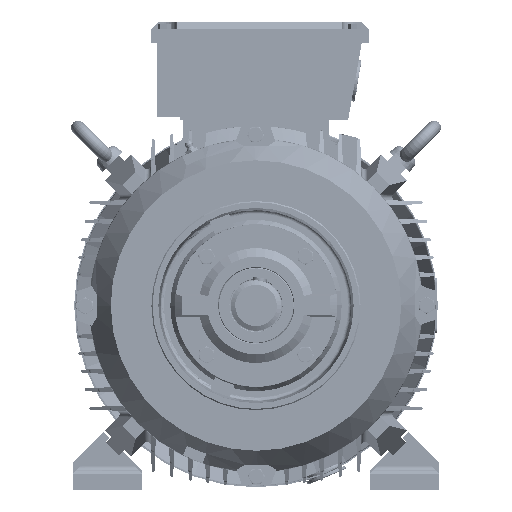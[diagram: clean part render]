
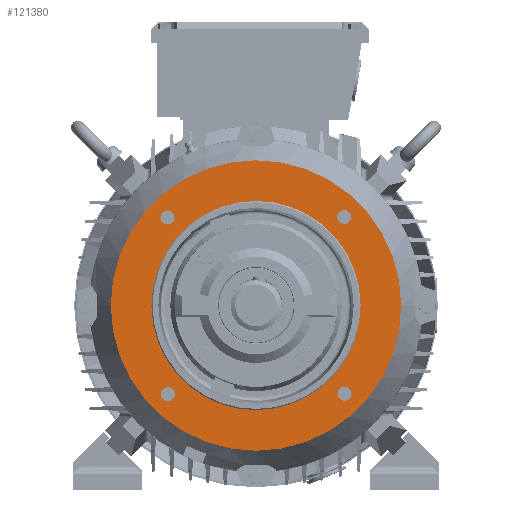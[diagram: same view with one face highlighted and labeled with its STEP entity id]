
A CAD part, left-side view. The second image highlights one B-rep face of the part: STEP entity #121380.
In plain terms, the highlighted planar face has unit normal (-1, 0, 0).
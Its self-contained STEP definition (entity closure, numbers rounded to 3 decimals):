
#7769 = CARTESIAN_POINT ( 'NONE',  ( -130.343, -59.333, -78.166 ) ) ;
#10967 = EDGE_LOOP ( 'NONE', ( #162913, #168850 ) ) ;
#11090 = CARTESIAN_POINT ( 'NONE',  ( -130.343, 93.06, 73.495 ) ) ;
#12861 = CARTESIAN_POINT ( 'NONE',  ( -130.343, 98.694, -78.547 ) ) ;
#13649 = CIRCLE ( 'NONE', #237617, 6. ) ;
#13705 = ORIENTED_EDGE ( 'NONE', *, *, #255192, .F. ) ;
#14177 = DIRECTION ( 'NONE',  ( -1., 0., 0. ) ) ;
#14619 = CARTESIAN_POINT ( 'NONE',  ( -130.343, 99.06, 73.481 ) ) ;
#17585 = CIRCLE ( 'NONE', #60711, 90. ) ;
#20426 = AXIS2_PLACEMENT_3D ( 'NONE', #55722, #156927, #160932 ) ;
#21892 = FACE_BOUND ( 'NONE', #10967, .T. ) ;
#22216 = DIRECTION ( 'NONE',  ( -1., 0., 0. ) ) ;
#24654 = CIRCLE ( 'NONE', #158326, 6. ) ;
#25082 = AXIS2_PLACEMENT_3D ( 'NONE', #48822, #171644, #213446 ) ;
#27525 = DIRECTION ( 'NONE',  ( 0., 1., -0.002 ) ) ;
#34170 = CARTESIAN_POINT ( 'NONE',  ( -130.343, 22.864, -2.35 ) ) ;
#40591 = DIRECTION ( 'NONE',  ( -1., 0., 0. ) ) ;
#42498 = AXIS2_PLACEMENT_3D ( 'NONE', #105551, #186668, #227123 ) ;
#42804 = CARTESIAN_POINT ( 'NONE',  ( -130.343, 98.694, -78.547 ) ) ;
#43486 = FACE_BOUND ( 'NONE', #70364, .T. ) ;
#46233 = VERTEX_POINT ( 'NONE', #105372 ) ;
#47003 = CARTESIAN_POINT ( 'NONE',  ( -130.343, 22.864, -2.35 ) ) ;
#48822 = CARTESIAN_POINT ( 'NONE',  ( -130.343, 22.864, -2.35 ) ) ;
#50024 = VERTEX_POINT ( 'NONE', #76714 ) ;
#50961 = DIRECTION ( 'NONE',  ( 0., -1., 0.002 ) ) ;
#53525 = VERTEX_POINT ( 'NONE', #60709 ) ;
#55124 = EDGE_CURVE ( 'NONE', #208120, #88705, #187933, .T. ) ;
#55552 = VERTEX_POINT ( 'NONE', #99927 ) ;
#55722 = CARTESIAN_POINT ( 'NONE',  ( -130.343, -52.967, 73.847 ) ) ;
#56404 = DIRECTION ( 'NONE',  ( 0., 1., -0.002 ) ) ;
#58562 = CIRCLE ( 'NONE', #67192, 6. ) ;
#58834 = ORIENTED_EDGE ( 'NONE', *, *, #109235, .F. ) ;
#60620 = EDGE_LOOP ( 'NONE', ( #212415, #83271 ) ) ;
#60709 = CARTESIAN_POINT ( 'NONE',  ( -130.343, -67.136, -2.133 ) ) ;
#60711 = AXIS2_PLACEMENT_3D ( 'NONE', #47003, #129328, #211629 ) ;
#60963 = CARTESIAN_POINT ( 'NONE',  ( -130.343, -53.333, -78.18 ) ) ;
#61489 = EDGE_CURVE ( 'NONE', #226945, #46233, #13649, .T. ) ;
#67192 = AXIS2_PLACEMENT_3D ( 'NONE', #60963, #141966, #200050 ) ;
#70364 = EDGE_LOOP ( 'NONE', ( #163960, #13705 ) ) ;
#76714 = CARTESIAN_POINT ( 'NONE',  ( -130.343, 112.863, -2.567 ) ) ;
#81571 = EDGE_CURVE ( 'NONE', #229520, #116386, #24654, .T. ) ;
#82308 = ORIENTED_EDGE ( 'NONE', *, *, #81571, .F. ) ;
#83271 = ORIENTED_EDGE ( 'NONE', *, *, #61489, .F. ) ;
#88705 = VERTEX_POINT ( 'NONE', #102536 ) ;
#99306 = ORIENTED_EDGE ( 'NONE', *, *, #132578, .F. ) ;
#99927 = CARTESIAN_POINT ( 'NONE',  ( -130.343, -102.136, -2.049 ) ) ;
#102536 = CARTESIAN_POINT ( 'NONE',  ( -130.343, 92.694, -78.532 ) ) ;
#104200 = FACE_BOUND ( 'NONE', #109904, .T. ) ;
#104248 = CARTESIAN_POINT ( 'NONE',  ( -130.343, 105.06, 73.466 ) ) ;
#105310 = DIRECTION ( 'NONE',  ( 0., 1., -0.002 ) ) ;
#105372 = CARTESIAN_POINT ( 'NONE',  ( -130.343, -47.333, -78.195 ) ) ;
#105551 = CARTESIAN_POINT ( 'NONE',  ( -130.343, 23.08, 87.65 ) ) ;
#109235 = EDGE_CURVE ( 'NONE', #132391, #116472, #264012, .T. ) ;
#109904 = EDGE_LOOP ( 'NONE', ( #82308, #99306 ) ) ;
#116386 = VERTEX_POINT ( 'NONE', #11090 ) ;
#116472 = VERTEX_POINT ( 'NONE', #222824 ) ;
#119978 = CARTESIAN_POINT ( 'NONE',  ( -130.343, -58.967, 73.862 ) ) ;
#121380 = ADVANCED_FACE ( 'NONE', ( #186535, #124452, #21892, #104200, #125782, #43486 ), #208090, .F. ) ;
#124452 = FACE_BOUND ( 'NONE', #60620, .T. ) ;
#125170 = EDGE_LOOP ( 'NONE', ( #155308, #155329 ) ) ;
#125782 = FACE_BOUND ( 'NONE', #163952, .T. ) ;
#128202 = DIRECTION ( 'NONE',  ( 0., 1., -0.002 ) ) ;
#129328 = DIRECTION ( 'NONE',  ( -1., 0., 0. ) ) ;
#132391 = VERTEX_POINT ( 'NONE', #119978 ) ;
#132578 = EDGE_CURVE ( 'NONE', #116386, #229520, #211790, .T. ) ;
#136742 = DIRECTION ( 'NONE',  ( 0., -1., 0.002 ) ) ;
#140362 = VERTEX_POINT ( 'NONE', #247780 ) ;
#141527 = DIRECTION ( 'NONE',  ( 0., 1., -0.002 ) ) ;
#141966 = DIRECTION ( 'NONE',  ( -1., 0., 0. ) ) ;
#145545 = EDGE_CURVE ( 'NONE', #116472, #132391, #227298, .T. ) ;
#145806 = CARTESIAN_POINT ( 'NONE',  ( -130.343, -53.333, -78.18 ) ) ;
#151656 = DIRECTION ( 'NONE',  ( -1., 0., 0. ) ) ;
#155308 = ORIENTED_EDGE ( 'NONE', *, *, #195180, .T. ) ;
#155329 = ORIENTED_EDGE ( 'NONE', *, *, #196840, .T. ) ;
#156927 = DIRECTION ( 'NONE',  ( -1., 0., 0. ) ) ;
#158326 = AXIS2_PLACEMENT_3D ( 'NONE', #14619, #22216, #56404 ) ;
#158517 = DIRECTION ( 'NONE',  ( 0., 1., -0.002 ) ) ;
#160932 = DIRECTION ( 'NONE',  ( 0., 1., -0.002 ) ) ;
#162913 = ORIENTED_EDGE ( 'NONE', *, *, #55124, .F. ) ;
#163952 = EDGE_LOOP ( 'NONE', ( #238285, #58834 ) ) ;
#163960 = ORIENTED_EDGE ( 'NONE', *, *, #199960, .F. ) ;
#167861 = CIRCLE ( 'NONE', #25082, 125. ) ;
#168850 = ORIENTED_EDGE ( 'NONE', *, *, #223306, .F. ) ;
#169275 = AXIS2_PLACEMENT_3D ( 'NONE', #253654, #229393, #128202 ) ;
#171644 = DIRECTION ( 'NONE',  ( -1., 0., 0. ) ) ;
#179060 = CARTESIAN_POINT ( 'NONE',  ( -130.343, 104.694, -78.561 ) ) ;
#181591 = AXIS2_PLACEMENT_3D ( 'NONE', #227811, #246732, #141527 ) ;
#183692 = AXIS2_PLACEMENT_3D ( 'NONE', #42804, #151656, #27525 ) ;
#184640 = CIRCLE ( 'NONE', #244900, 125. ) ;
#186535 = FACE_OUTER_BOUND ( 'NONE', #125170, .T. ) ;
#186668 = DIRECTION ( 'NONE',  ( 1., 0., 0. ) ) ;
#187933 = CIRCLE ( 'NONE', #183692, 6. ) ;
#188464 = EDGE_CURVE ( 'NONE', #46233, #226945, #58562, .T. ) ;
#195180 = EDGE_CURVE ( 'NONE', #55552, #140362, #184640, .T. ) ;
#196840 = EDGE_CURVE ( 'NONE', #140362, #55552, #167861, .T. ) ;
#199960 = EDGE_CURVE ( 'NONE', #53525, #50024, #17585, .T. ) ;
#200050 = DIRECTION ( 'NONE',  ( 0., 1., -0.002 ) ) ;
#208090 = PLANE ( 'NONE',  #42498 ) ;
#208120 = VERTEX_POINT ( 'NONE', #179060 ) ;
#211629 = DIRECTION ( 'NONE',  ( 0., -1., 0.002 ) ) ;
#211790 = CIRCLE ( 'NONE', #181591, 6. ) ;
#212415 = ORIENTED_EDGE ( 'NONE', *, *, #188464, .F. ) ;
#212508 = CIRCLE ( 'NONE', #264342, 90. ) ;
#213446 = DIRECTION ( 'NONE',  ( 0., -1., 0.002 ) ) ;
#222824 = CARTESIAN_POINT ( 'NONE',  ( -130.343, -46.967, 73.833 ) ) ;
#223306 = EDGE_CURVE ( 'NONE', #88705, #208120, #223822, .T. ) ;
#223822 = CIRCLE ( 'NONE', #241129, 6. ) ;
#226945 = VERTEX_POINT ( 'NONE', #7769 ) ;
#227123 = DIRECTION ( 'NONE',  ( 0., 0.002, 1. ) ) ;
#227298 = CIRCLE ( 'NONE', #20426, 6. ) ;
#227811 = CARTESIAN_POINT ( 'NONE',  ( -130.343, 99.06, 73.481 ) ) ;
#229393 = DIRECTION ( 'NONE',  ( -1., 0., 0. ) ) ;
#229520 = VERTEX_POINT ( 'NONE', #104248 ) ;
#234480 = DIRECTION ( 'NONE',  ( -1., 0., 0. ) ) ;
#236614 = DIRECTION ( 'NONE',  ( -1., 0., 0. ) ) ;
#237617 = AXIS2_PLACEMENT_3D ( 'NONE', #145806, #40591, #105310 ) ;
#238285 = ORIENTED_EDGE ( 'NONE', *, *, #145545, .F. ) ;
#241129 = AXIS2_PLACEMENT_3D ( 'NONE', #12861, #14177, #158517 ) ;
#244900 = AXIS2_PLACEMENT_3D ( 'NONE', #34170, #236614, #136742 ) ;
#246732 = DIRECTION ( 'NONE',  ( -1., 0., 0. ) ) ;
#247780 = CARTESIAN_POINT ( 'NONE',  ( -130.343, 147.863, -2.651 ) ) ;
#253654 = CARTESIAN_POINT ( 'NONE',  ( -130.343, -52.967, 73.847 ) ) ;
#255192 = EDGE_CURVE ( 'NONE', #50024, #53525, #212508, .T. ) ;
#260053 = CARTESIAN_POINT ( 'NONE',  ( -130.343, 22.864, -2.35 ) ) ;
#264012 = CIRCLE ( 'NONE', #169275, 6. ) ;
#264342 = AXIS2_PLACEMENT_3D ( 'NONE', #260053, #234480, #50961 ) ;
